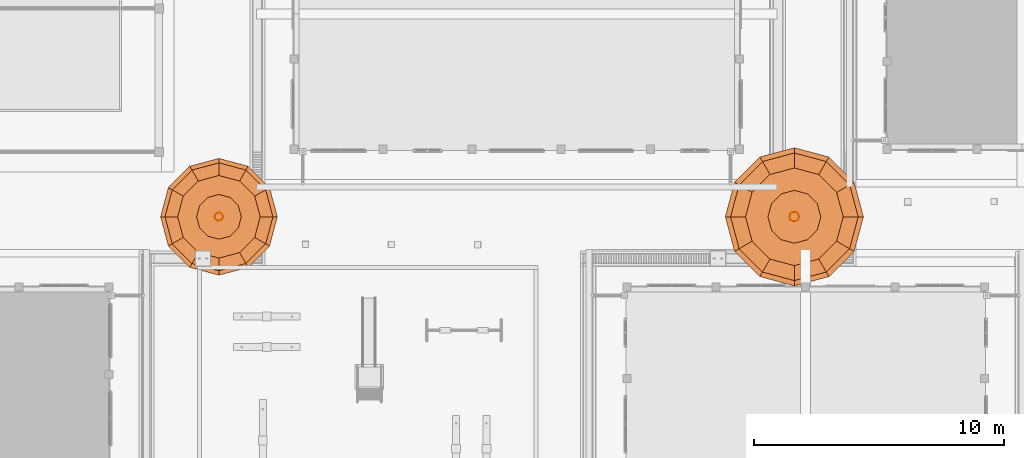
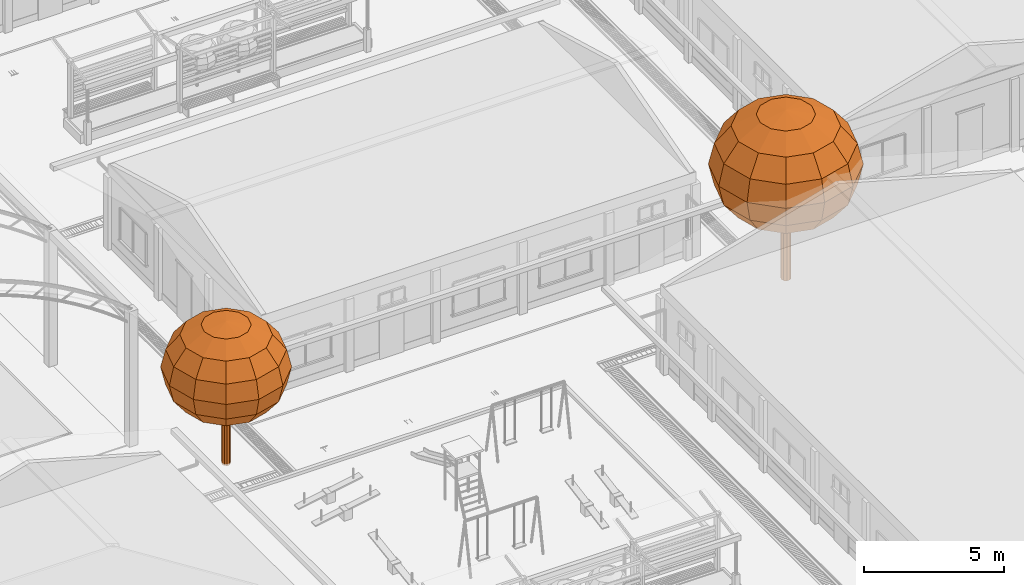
# One storey, part 159 of 166: 4 proxies.
"""IFC2X3 building model written with IfcOpenShell, lengths in metres."""

import ifcopenshell
import ifcopenshell.guid

model = None  # the IFC model being written
_history = None  # IfcOwnerHistory: only IFC2X3 demands one
_inside = {}  # id of a spatial element -> (the spatial element, [elements in it])
_under = {}  # id of a project, library or spatial element -> (it, [spatial elements below it])
_declared = {}  # id of a project -> (the project, [libraries it declares])
_typed = {}  # id of a type object -> (the type object, [elements of that type])
_made_of = {}  # id of a material, layer set ... -> (it, [elements and type objects made of it])


def new_model(schema):
    """Start an empty IFC model of exactly this schema.

    Asked for "IFC4X3", IfcOpenShell would pick the latest addendum, in which some entities
    have other attributes; the version numbers below select the first issue.
    IFC2X3 requires an IfcOwnerHistory on every rooted entity: one is made here for all.
    """
    global model, _history
    if schema == "IFC4X3":
        model = ifcopenshell.file(schema_version=(4, 3, 0, 0))
    else:
        model = ifcopenshell.file(schema=schema)
    _inside.clear()
    _under.clear()
    _declared.clear()
    _typed.clear()
    _made_of.clear()
    _history = None
    if model.schema == "IFC2X3":
        org = make("IfcOrganization", Name="unknown")
        user = make(
            "IfcPersonAndOrganization",
            ThePerson=make("IfcPerson", FamilyName="unknown"),
            TheOrganization=org,
        )
        app = make(
            "IfcApplication",
            ApplicationDeveloper=org,
            Version="unknown",
            ApplicationFullName="unknown",
            ApplicationIdentifier="unknown",
        )
        _history = make(
            "IfcOwnerHistory",
            OwningUser=user,
            OwningApplication=app,
            ChangeAction="ADDED",
            CreationDate=0,
        )
    return model


def make(cls, **values):
    """One entity of the class cls with the attributes given. An attribute that is None is left unset."""
    return model.create_entity(
        cls, **{name: value for name, value in values.items() if value is not None}
    )


def rooted(cls, **values):
    """An entity with a GlobalId (a new one), such as an element, a storey or a relation."""
    return make(cls, GlobalId=ifcopenshell.guid.new(), OwnerHistory=_history, **values)


def si_unit(unit_type, name, prefix=None):
    """IfcSIUnit, for example si_unit("LENGTHUNIT", "METRE", prefix="MILLI")."""
    return make("IfcSIUnit", UnitType=unit_type, Prefix=prefix, Name=name)


def assignment(units):
    """IfcUnitAssignment: the units of a project."""
    return None if units is None else make("IfcUnitAssignment", Units=units)


def point(xyz):
    """IfcCartesianPoint."""
    return None if xyz is None else make("IfcCartesianPoint", Coordinates=xyz)


def direction(xyz):
    """IfcDirection."""
    return None if xyz is None else make("IfcDirection", DirectionRatios=xyz)


def frame(location, z_axis=None, x_axis=None):
    """IfcAxis2Placement3D, a coordinate frame: its origin and axes. An axis left out is left unset."""
    return make(
        "IfcAxis2Placement3D",
        Location=point(location),
        Axis=direction(z_axis),
        RefDirection=direction(x_axis),
    )


def origin():
    """The frame at (0, 0, 0) with its axes left unset."""
    return frame((0.0, 0.0, 0.0))


def origin_with_axes():
    """The frame at (0, 0, 0) with the z axis (0, 0, 1) and the x axis (1, 0, 0) written out."""
    return frame((0.0, 0.0, 0.0), z_axis=(0.0, 0.0, 1.0), x_axis=(1.0, 0.0, 0.0))


def place(relative_to, where):
    """IfcLocalPlacement: puts the frame where relative to a parent placement (None: the world)."""
    return make(
        "IfcLocalPlacement", PlacementRelTo=relative_to, RelativePlacement=where
    )


def context(
    kind, dimensions, precision=None, world=None, true_north=None, identifier=None
):
    """IfcGeometricRepresentationContext, for example the 3D "Model" context."""
    return make(
        "IfcGeometricRepresentationContext",
        ContextIdentifier=identifier,
        ContextType=kind,
        CoordinateSpaceDimension=dimensions,
        Precision=precision,
        WorldCoordinateSystem=world,
        TrueNorth=true_north,
    )


def subcontext(parent, identifier, kind, view, scale=None):
    """IfcGeometricRepresentationSubContext, for example "Body" below "Model"."""
    return make(
        "IfcGeometricRepresentationSubContext",
        ContextIdentifier=identifier,
        ContextType=kind,
        ParentContext=parent,
        TargetScale=scale,
        TargetView=view,
    )


def project(units=None, contexts=None):
    """IfcProject with its units and contexts."""
    return rooted(
        "IfcProject",
        Name="project",
        RepresentationContexts=contexts,
        UnitsInContext=assignment(units),
    )


def spatial(cls, under=None, at=None, **own):
    """A site, building, storey or space (cls), placed at a placement, below another one or the project."""
    s = rooted(cls, ObjectPlacement=at, **own)
    if under is not None:
        _under.setdefault(under.id(), (under, []))[1].append(s)
    return s


def faces_of(points, faces, orient=None, outer=None):
    """IfcFace entities. A face is a list of loops; a loop is a list of indices into points, from 0.

    orient and outer hold one flag for each loop. By default every Orientation is true, the
    first loop of a face is its IfcFaceOuterBound and the others are IfcFaceBound.
    """
    made = []
    for i, loops in enumerate(faces):
        bounds = []
        for j, loop in enumerate(loops):
            is_outer = j == 0 if outer is None else outer[i][j]
            bounds.append(
                make(
                    "IfcFaceOuterBound" if is_outer else "IfcFaceBound",
                    Bound=make("IfcPolyLoop", Polygon=[points[k] for k in loop]),
                    Orientation=True if orient is None else orient[i][j],
                )
            )
        made.append(make("IfcFace", Bounds=bounds))
    return made


def faceted_brep(points, faces, orient=None, outer=None, voids=None):
    """IfcFacetedBrep: a solid bounded by flat faces; with voids (closed shells), ...WithVoids."""
    shared = [point(p) for p in points]
    hull = make("IfcClosedShell", CfsFaces=faces_of(shared, faces, orient, outer))
    if voids is None:
        return make("IfcFacetedBrep", Outer=hull)
    return make(
        "IfcFacetedBrepWithVoids",
        Outer=hull,
        Voids=[
            make(cls, CfsFaces=faces_of(shared, fs, o, b)) for cls, fs, o, b in voids
        ],
    )


def shape(context_of_items, identifier, shape_type, items):
    """IfcShapeRepresentation: the items that make up one representation, for example the "Body"."""
    return make(
        "IfcShapeRepresentation",
        ContextOfItems=context_of_items,
        RepresentationIdentifier=identifier,
        RepresentationType=shape_type,
        Items=items,
    )


def made_of(thing, what):
    """Note that an element or type object is made of a material, layer set ...; save() writes the relation."""
    if what is not None:
        _made_of.setdefault(what.id(), (what, []))[1].append(thing)
    return thing


def element(
    cls,
    number,
    at=None,
    inside=None,
    cuts=None,
    type_object=None,
    material=None,
    context=None,
    identifier="Body",
    shape_type=None,
    held_by="IfcProductDefinitionShape",
    body=None,
    shapes=None,
    **own,
):
    """One element of the class cls, such as IfcWall. Its Tag is "e" and its number.

    at: its placement. inside: the storey or other place that contains it. cuts: it is an
    opening in that element (IfcRelVoidsElement). A single representation is given by context,
    identifier, shape_type and body (its items); several are given by shapes. held_by: the class
    of the entity that holds the representations. save() writes the other relations.
    """
    e = rooted(cls, Tag="e%d" % number, ObjectPlacement=at, **own)
    if body is not None:
        shapes = [shape(context, identifier, shape_type, body)]
    if shapes is not None:
        e.Representation = make(held_by, Representations=shapes)
    if inside is not None:
        _inside.setdefault(inside.id(), (inside, []))[1].append(e)
    if cuts is not None:
        rooted(
            "IfcRelVoidsElement", RelatingBuildingElement=cuts, RelatedOpeningElement=e
        )
    if type_object is not None:
        _typed.setdefault(type_object.id(), (type_object, []))[1].append(e)
    return made_of(e, material)


def aggregate(whole, parts):
    """IfcRelAggregates: a whole, such as a stair, and the parts it consists of."""
    return rooted("IfcRelAggregates", RelatingObject=whole, RelatedObjects=parts)


def save(model, path):
    """Write the relations noted so far, then the file.

    IfcRelAggregates (storeys below a building ...), IfcRelContainedInSpatialStructure (elements
    in a storey), IfcRelDefinesByType, IfcRelAssociatesMaterial and IfcRelDeclares: one each for
    every whole, place, type object, material and project.
    """
    for whole, parts in _under.values():
        aggregate(whole, parts)
    for where, things in _inside.values():
        rooted(
            "IfcRelContainedInSpatialStructure",
            RelatedElements=things,
            RelatingStructure=where,
        )
    for kind, things in _typed.values():
        rooted("IfcRelDefinesByType", RelatedObjects=things, RelatingType=kind)
    for what, things in _made_of.values():
        rooted("IfcRelAssociatesMaterial", RelatedObjects=things, RelatingMaterial=what)
    for by, libraries in _declared.values():
        rooted("IfcRelDeclares", RelatingContext=by, RelatedDefinitions=libraries)
    model.write(path)


model = new_model("IFC2X3")

# Units and contexts
model_context = context("Model", 3, precision=1e-05, world=origin_with_axes())
body_context = subcontext(model_context, "Body", "Model", "MODEL_VIEW")
ifc_project = project(units=[si_unit("LENGTHUNIT", "METRE"), si_unit("AREAUNIT", "SQUARE_METRE"), si_unit("VOLUMEUNIT", "CUBIC_METRE"), si_unit("PLANEANGLEUNIT", "RADIAN")], contexts=[model_context])

# Site, building, storey
site_placement = place(None, origin_with_axes())
site = spatial("IfcSite", under=ifc_project, at=site_placement, Name="Predio Los Mangos - Morales, San Martín", CompositionType="ELEMENT")
building_placement = place(site_placement, origin())
building = spatial("IfcBuilding", under=site, at=building_placement, Name="Hogar de Refugio Temporal", CompositionType="ELEMENT")
storey_placement = place(building_placement, origin())
storey = spatial("IfcBuildingStorey", under=building, at=storey_placement, Name="NIVEL 1 (NPT +0.00)", CompositionType="ELEMENT", Elevation=0.0)

# Proxies
proxy_1_placement = place(storey_placement, origin())
element("IfcBuildingElementProxy", 1, at=proxy_1_placement, inside=storey, Name="arbol_tronco", ObjectType="Árbol", context=body_context, shape_type="Brep", body=[
    faceted_brep([(29.1624, 90.0, 0.0), (29.1314, 90.0954, 0.0), (29.1314, 90.0954, 2.4354), (29.0502, 90.1544, 0.0), (29.0502, 90.1544, 2.4354), (28.9498, 90.1544, 0.0), (28.9498, 90.1544, 2.4354), (28.8686, 90.0954, 0.0), (28.8686, 90.0954, 2.4354), (28.8376, 90.0, 0.0), (28.8376, 90.0, 2.4354), (28.8686, 89.9046, 0.0), (28.8686, 89.9046, 2.4354), (28.9498, 89.8456, 0.0), (28.9498, 89.8456, 2.4354), (29.0502, 89.8456, 0.0), (29.0502, 89.8456, 2.4354), (29.1314, 89.9046, 0.0), (29.1314, 89.9046, 2.4354), (29.1624, 90.0, 2.4354)], [[[0, 1, 2]], [[1, 3, 4]], [[3, 5, 6]], [[5, 7, 8]], [[7, 9, 10]], [[9, 11, 12]], [[11, 13, 14]], [[13, 15, 16]], [[15, 17, 18]], [[17, 0, 19]], [[0, 2, 19]], [[1, 4, 2]], [[3, 6, 4]], [[5, 8, 6]], [[7, 10, 8]], [[9, 12, 10]], [[11, 14, 12]], [[13, 16, 14]], [[15, 18, 16]], [[17, 19, 18]]]),
])
proxy_2_placement = place(storey_placement, origin())
element("IfcBuildingElementProxy", 2, at=proxy_2_placement, inside=storey, Name="arbol_copa", ObjectType="Árbol", context=body_context, shape_type="Brep", body=[
    faceted_brep([(29.0, 90.0, 6.1697), (29.0, 90.0, 6.1697), (29.7735, 90.4466, 6.0187), (29.8932, 90.0, 6.0187), (29.0, 90.0, 6.1697), (29.4466, 90.7735, 6.0187), (29.0, 90.0, 6.1697), (29.0, 90.8932, 6.0187), (29.0, 90.0, 6.1697), (28.5534, 90.7735, 6.0187), (29.0, 90.0, 6.1697), (28.2265, 90.4466, 6.0187), (29.0, 90.0, 6.1697), (28.1068, 90.0, 6.0187), (29.0, 90.0, 6.1697), (28.2265, 89.5534, 6.0187), (29.0, 90.0, 6.1697), (28.5534, 89.2265, 6.0187), (29.0, 90.0, 6.1697), (29.0, 89.1068, 6.0187), (29.0, 90.0, 6.1697), (29.4466, 89.2265, 6.0187), (29.0, 90.0, 6.1697), (29.7735, 89.5534, 6.0187), (30.4292, 90.8252, 5.5887), (30.6503, 90.0, 5.5887), (29.8252, 91.4292, 5.5887), (29.0, 91.6503, 5.5887), (28.1748, 91.4292, 5.5887), (27.5708, 90.8252, 5.5887), (27.3497, 90.0, 5.5887), (27.5708, 89.1748, 5.5887), (28.1748, 88.5708, 5.5887), (29.0, 88.3497, 5.5887), (29.8252, 88.5708, 5.5887), (30.4292, 89.1748, 5.5887), (30.8674, 91.0781, 4.9451), (31.1563, 90.0, 4.9451), (30.0781, 91.8674, 4.9451), (29.0, 92.1563, 4.9451), (27.9219, 91.8674, 4.9451), (27.1326, 91.0781, 4.9451), (26.8437, 90.0, 4.9451), (27.1326, 88.9219, 4.9451), (27.9219, 88.1326, 4.9451), (29.0, 87.8437, 4.9451), (30.0781, 88.1326, 4.9451), (30.8674, 88.9219, 4.9451), (31.0213, 91.167, 4.1859), (31.3339, 90.0, 4.1859), (30.167, 92.0213, 4.1859), (29.0, 92.3339, 4.1859), (27.833, 92.0213, 4.1859), (26.9787, 91.167, 4.1859), (26.6661, 90.0, 4.1859), (26.9787, 88.833, 4.1859), (27.833, 87.9787, 4.1859), (29.0, 87.6661, 4.1859), (30.167, 87.9787, 4.1859), (31.0213, 88.833, 4.1859), (30.8674, 91.0781, 3.4267), (31.1563, 90.0, 3.4267), (30.0781, 91.8674, 3.4267), (29.0, 92.1563, 3.4267), (27.9219, 91.8674, 3.4267), (27.1326, 91.0781, 3.4267), (26.8437, 90.0, 3.4267), (27.1326, 88.9219, 3.4267), (27.9219, 88.1326, 3.4267), (29.0, 87.8437, 3.4267), (30.0781, 88.1326, 3.4267), (30.8674, 88.9219, 3.4267), (30.4292, 90.8252, 2.7831), (30.6503, 90.0, 2.7831), (29.8252, 91.4292, 2.7831), (29.0, 91.6503, 2.7831), (28.1748, 91.4292, 2.7831), (27.5708, 90.8252, 2.7831), (27.3497, 90.0, 2.7831), (27.5708, 89.1748, 2.7831), (28.1748, 88.5708, 2.7831), (29.0, 88.3497, 2.7831), (29.8252, 88.5708, 2.7831), (30.4292, 89.1748, 2.7831), (29.7735, 90.4466, 2.353), (29.8932, 90.0, 2.353), (29.4466, 90.7735, 2.353), (29.0, 90.8932, 2.353), (28.5534, 90.7735, 2.353), (28.2265, 90.4466, 2.353), (28.1068, 90.0, 2.353), (28.2265, 89.5534, 2.353), (28.5534, 89.2265, 2.353), (29.0, 89.1068, 2.353), (29.4466, 89.2265, 2.353), (29.7735, 89.5534, 2.353), (29.0, 90.0, 2.202), (29.0, 90.0, 2.202), (29.0, 90.0, 2.202), (29.0, 90.0, 2.202), (29.0, 90.0, 2.202), (29.0, 90.0, 2.202), (29.0, 90.0, 2.202), (29.0, 90.0, 2.202), (29.0, 90.0, 2.202), (29.0, 90.0, 2.202), (29.0, 90.0, 2.202), (29.0, 90.0, 2.202)], [[[0, 1, 2]], [[0, 2, 3]], [[1, 4, 5]], [[1, 5, 2]], [[4, 6, 7]], [[4, 7, 5]], [[6, 8, 9]], [[6, 9, 7]], [[8, 10, 11]], [[8, 11, 9]], [[10, 12, 13]], [[10, 13, 11]], [[12, 14, 15]], [[12, 15, 13]], [[14, 16, 17]], [[14, 17, 15]], [[16, 18, 19]], [[16, 19, 17]], [[18, 20, 21]], [[18, 21, 19]], [[20, 22, 23]], [[20, 23, 21]], [[22, 0, 3]], [[22, 3, 23]], [[3, 2, 24]], [[3, 24, 25]], [[2, 5, 26]], [[2, 26, 24]], [[5, 7, 27]], [[5, 27, 26]], [[7, 9, 28]], [[7, 28, 27]], [[9, 11, 29]], [[9, 29, 28]], [[11, 13, 30]], [[11, 30, 29]], [[13, 15, 31]], [[13, 31, 30]], [[15, 17, 32]], [[15, 32, 31]], [[17, 19, 33]], [[17, 33, 32]], [[19, 21, 34]], [[19, 34, 33]], [[21, 23, 35]], [[21, 35, 34]], [[23, 3, 25]], [[23, 25, 35]], [[25, 24, 36]], [[25, 36, 37]], [[24, 26, 38]], [[24, 38, 36]], [[26, 27, 39]], [[26, 39, 38]], [[27, 28, 40]], [[27, 40, 39]], [[28, 29, 41]], [[28, 41, 40]], [[29, 30, 42]], [[29, 42, 41]], [[30, 31, 43]], [[30, 43, 42]], [[31, 32, 44]], [[31, 44, 43]], [[32, 33, 45]], [[32, 45, 44]], [[33, 34, 46]], [[33, 46, 45]], [[34, 35, 47]], [[34, 47, 46]], [[35, 25, 37]], [[35, 37, 47]], [[37, 36, 48]], [[37, 48, 49]], [[36, 38, 50]], [[36, 50, 48]], [[38, 39, 51]], [[38, 51, 50]], [[39, 40, 52]], [[39, 52, 51]], [[40, 41, 53]], [[40, 53, 52]], [[41, 42, 54]], [[41, 54, 53]], [[42, 43, 55]], [[42, 55, 54]], [[43, 44, 56]], [[43, 56, 55]], [[44, 45, 57]], [[44, 57, 56]], [[45, 46, 58]], [[45, 58, 57]], [[46, 47, 59]], [[46, 59, 58]], [[47, 37, 49]], [[47, 49, 59]], [[49, 48, 60]], [[49, 60, 61]], [[48, 50, 62]], [[48, 62, 60]], [[50, 51, 63]], [[50, 63, 62]], [[51, 52, 64]], [[51, 64, 63]], [[52, 53, 65]], [[52, 65, 64]], [[53, 54, 66]], [[53, 66, 65]], [[54, 55, 67]], [[54, 67, 66]], [[55, 56, 68]], [[55, 68, 67]], [[56, 57, 69]], [[56, 69, 68]], [[57, 58, 70]], [[57, 70, 69]], [[58, 59, 71]], [[58, 71, 70]], [[59, 49, 61]], [[59, 61, 71]], [[61, 60, 72]], [[61, 72, 73]], [[60, 62, 74]], [[60, 74, 72]], [[62, 63, 75]], [[62, 75, 74]], [[63, 64, 76]], [[63, 76, 75]], [[64, 65, 77]], [[64, 77, 76]], [[65, 66, 78]], [[65, 78, 77]], [[66, 67, 79]], [[66, 79, 78]], [[67, 68, 80]], [[67, 80, 79]], [[68, 69, 81]], [[68, 81, 80]], [[69, 70, 82]], [[69, 82, 81]], [[70, 71, 83]], [[70, 83, 82]], [[71, 61, 73]], [[71, 73, 83]], [[73, 72, 84]], [[73, 84, 85]], [[72, 74, 86]], [[72, 86, 84]], [[74, 75, 87]], [[74, 87, 86]], [[75, 76, 88]], [[75, 88, 87]], [[76, 77, 89]], [[76, 89, 88]], [[77, 78, 90]], [[77, 90, 89]], [[78, 79, 91]], [[78, 91, 90]], [[79, 80, 92]], [[79, 92, 91]], [[80, 81, 93]], [[80, 93, 92]], [[81, 82, 94]], [[81, 94, 93]], [[82, 83, 95]], [[82, 95, 94]], [[83, 73, 85]], [[83, 85, 95]], [[85, 84, 96]], [[85, 96, 97]], [[84, 86, 98]], [[84, 98, 96]], [[86, 87, 99]], [[86, 99, 98]], [[87, 88, 100]], [[87, 100, 99]], [[88, 89, 101]], [[88, 101, 100]], [[89, 90, 102]], [[89, 102, 101]], [[90, 91, 103]], [[90, 103, 102]], [[91, 92, 104]], [[91, 104, 103]], [[92, 93, 105]], [[92, 105, 104]], [[93, 94, 106]], [[93, 106, 105]], [[94, 95, 107]], [[94, 107, 106]], [[95, 85, 97]], [[95, 97, 107]]]),
])
proxy_3_placement = place(storey_placement, origin())
element("IfcBuildingElementProxy", 3, at=proxy_3_placement, inside=storey, Name="arbol_tronco", ObjectType="Árbol", context=body_context, shape_type="Brep", body=[
    faceted_brep([(52.192, 90.0, 0.0), (52.1553, 90.1129, 0.0), (52.1553, 90.1129, 2.8802), (52.0593, 90.1826, 0.0), (52.0593, 90.1826, 2.8802), (51.9407, 90.1826, 0.0), (51.9407, 90.1826, 2.8802), (51.8447, 90.1129, 0.0), (51.8447, 90.1129, 2.8802), (51.808, 90.0, 0.0), (51.808, 90.0, 2.8802), (51.8447, 89.8871, 0.0), (51.8447, 89.8871, 2.8802), (51.9407, 89.8174, 0.0), (51.9407, 89.8174, 2.8802), (52.0593, 89.8174, 0.0), (52.0593, 89.8174, 2.8802), (52.1553, 89.8871, 0.0), (52.1553, 89.8871, 2.8802), (52.192, 90.0, 2.8802)], [[[0, 1, 2]], [[1, 3, 4]], [[3, 5, 6]], [[5, 7, 8]], [[7, 9, 10]], [[9, 11, 12]], [[11, 13, 14]], [[13, 15, 16]], [[15, 17, 18]], [[17, 0, 19]], [[0, 2, 19]], [[1, 4, 2]], [[3, 6, 4]], [[5, 8, 6]], [[7, 10, 8]], [[9, 12, 10]], [[11, 14, 12]], [[13, 16, 14]], [[15, 18, 16]], [[17, 19, 18]]]),
])
proxy_4_placement = place(storey_placement, origin())
element("IfcBuildingElementProxy", 4, at=proxy_4_placement, inside=storey, Name="arbol_copa", ObjectType="Árbol", context=body_context, shape_type="Brep", body=[
    faceted_brep([(52.0, 90.0, 7.2966), (52.0, 90.0, 7.2966), (52.9148, 90.5281, 7.118), (53.0563, 90.0, 7.118), (52.0, 90.0, 7.2966), (52.5281, 90.9148, 7.118), (52.0, 90.0, 7.2966), (52.0, 91.0563, 7.118), (52.0, 90.0, 7.2966), (51.4719, 90.9148, 7.118), (52.0, 90.0, 7.2966), (51.0852, 90.5281, 7.118), (52.0, 90.0, 7.2966), (50.9437, 90.0, 7.118), (52.0, 90.0, 7.2966), (51.0852, 89.4719, 7.118), (52.0, 90.0, 7.2966), (51.4719, 89.0852, 7.118), (52.0, 90.0, 7.2966), (52.0, 88.9437, 7.118), (52.0, 90.0, 7.2966), (52.5281, 89.0852, 7.118), (52.0, 90.0, 7.2966), (52.9148, 89.4719, 7.118), (53.6903, 90.9759, 6.6094), (53.9518, 90.0, 6.6094), (52.9759, 91.6903, 6.6094), (52.0, 91.9518, 6.6094), (51.0241, 91.6903, 6.6094), (50.3097, 90.9759, 6.6094), (50.0482, 90.0, 6.6094), (50.3097, 89.0241, 6.6094), (51.0241, 88.3097, 6.6094), (52.0, 88.0482, 6.6094), (52.9759, 88.3097, 6.6094), (53.6903, 89.0241, 6.6094), (54.2085, 91.2751, 5.8482), (54.5501, 90.0, 5.8482), (53.2751, 92.2085, 5.8482), (52.0, 92.5501, 5.8482), (50.7249, 92.2085, 5.8482), (49.7915, 91.2751, 5.8482), (49.4499, 90.0, 5.8482), (49.7915, 88.7249, 5.8482), (50.7249, 87.7915, 5.8482), (52.0, 87.4499, 5.8482), (53.2751, 87.7915, 5.8482), (54.2085, 88.7249, 5.8482), (54.3904, 91.3801, 4.9504), (54.7602, 90.0, 4.9504), (53.3801, 92.3904, 4.9504), (52.0, 92.7602, 4.9504), (50.6199, 92.3904, 4.9504), (49.6096, 91.3801, 4.9504), (49.2398, 90.0, 4.9504), (49.6096, 88.6199, 4.9504), (50.6199, 87.6096, 4.9504), (52.0, 87.2398, 4.9504), (53.3801, 87.6096, 4.9504), (54.3904, 88.6199, 4.9504), (54.2085, 91.2751, 4.0525), (54.5501, 90.0, 4.0525), (53.2751, 92.2085, 4.0525), (52.0, 92.5501, 4.0525), (50.7249, 92.2085, 4.0525), (49.7915, 91.2751, 4.0525), (49.4499, 90.0, 4.0525), (49.7915, 88.7249, 4.0525), (50.7249, 87.7915, 4.0525), (52.0, 87.4499, 4.0525), (53.2751, 87.7915, 4.0525), (54.2085, 88.7249, 4.0525), (53.6903, 90.9759, 3.2914), (53.9518, 90.0, 3.2914), (52.9759, 91.6903, 3.2914), (52.0, 91.9518, 3.2914), (51.0241, 91.6903, 3.2914), (50.3097, 90.9759, 3.2914), (50.0482, 90.0, 3.2914), (50.3097, 89.0241, 3.2914), (51.0241, 88.3097, 3.2914), (52.0, 88.0482, 3.2914), (52.9759, 88.3097, 3.2914), (53.6903, 89.0241, 3.2914), (52.9148, 90.5281, 2.7828), (53.0563, 90.0, 2.7828), (52.5281, 90.9148, 2.7828), (52.0, 91.0563, 2.7828), (51.4719, 90.9148, 2.7828), (51.0852, 90.5281, 2.7828), (50.9437, 90.0, 2.7828), (51.0852, 89.4719, 2.7828), (51.4719, 89.0852, 2.7828), (52.0, 88.9437, 2.7828), (52.5281, 89.0852, 2.7828), (52.9148, 89.4719, 2.7828), (52.0, 90.0, 2.6042), (52.0, 90.0, 2.6042), (52.0, 90.0, 2.6042), (52.0, 90.0, 2.6042), (52.0, 90.0, 2.6042), (52.0, 90.0, 2.6042), (52.0, 90.0, 2.6042), (52.0, 90.0, 2.6042), (52.0, 90.0, 2.6042), (52.0, 90.0, 2.6042), (52.0, 90.0, 2.6042), (52.0, 90.0, 2.6042)], [[[0, 1, 2]], [[0, 2, 3]], [[1, 4, 5]], [[1, 5, 2]], [[4, 6, 7]], [[4, 7, 5]], [[6, 8, 9]], [[6, 9, 7]], [[8, 10, 11]], [[8, 11, 9]], [[10, 12, 13]], [[10, 13, 11]], [[12, 14, 15]], [[12, 15, 13]], [[14, 16, 17]], [[14, 17, 15]], [[16, 18, 19]], [[16, 19, 17]], [[18, 20, 21]], [[18, 21, 19]], [[20, 22, 23]], [[20, 23, 21]], [[22, 0, 3]], [[22, 3, 23]], [[3, 2, 24]], [[3, 24, 25]], [[2, 5, 26]], [[2, 26, 24]], [[5, 7, 27]], [[5, 27, 26]], [[7, 9, 28]], [[7, 28, 27]], [[9, 11, 29]], [[9, 29, 28]], [[11, 13, 30]], [[11, 30, 29]], [[13, 15, 31]], [[13, 31, 30]], [[15, 17, 32]], [[15, 32, 31]], [[17, 19, 33]], [[17, 33, 32]], [[19, 21, 34]], [[19, 34, 33]], [[21, 23, 35]], [[21, 35, 34]], [[23, 3, 25]], [[23, 25, 35]], [[25, 24, 36]], [[25, 36, 37]], [[24, 26, 38]], [[24, 38, 36]], [[26, 27, 39]], [[26, 39, 38]], [[27, 28, 40]], [[27, 40, 39]], [[28, 29, 41]], [[28, 41, 40]], [[29, 30, 42]], [[29, 42, 41]], [[30, 31, 43]], [[30, 43, 42]], [[31, 32, 44]], [[31, 44, 43]], [[32, 33, 45]], [[32, 45, 44]], [[33, 34, 46]], [[33, 46, 45]], [[34, 35, 47]], [[34, 47, 46]], [[35, 25, 37]], [[35, 37, 47]], [[37, 36, 48]], [[37, 48, 49]], [[36, 38, 50]], [[36, 50, 48]], [[38, 39, 51]], [[38, 51, 50]], [[39, 40, 52]], [[39, 52, 51]], [[40, 41, 53]], [[40, 53, 52]], [[41, 42, 54]], [[41, 54, 53]], [[42, 43, 55]], [[42, 55, 54]], [[43, 44, 56]], [[43, 56, 55]], [[44, 45, 57]], [[44, 57, 56]], [[45, 46, 58]], [[45, 58, 57]], [[46, 47, 59]], [[46, 59, 58]], [[47, 37, 49]], [[47, 49, 59]], [[49, 48, 60]], [[49, 60, 61]], [[48, 50, 62]], [[48, 62, 60]], [[50, 51, 63]], [[50, 63, 62]], [[51, 52, 64]], [[51, 64, 63]], [[52, 53, 65]], [[52, 65, 64]], [[53, 54, 66]], [[53, 66, 65]], [[54, 55, 67]], [[54, 67, 66]], [[55, 56, 68]], [[55, 68, 67]], [[56, 57, 69]], [[56, 69, 68]], [[57, 58, 70]], [[57, 70, 69]], [[58, 59, 71]], [[58, 71, 70]], [[59, 49, 61]], [[59, 61, 71]], [[61, 60, 72]], [[61, 72, 73]], [[60, 62, 74]], [[60, 74, 72]], [[62, 63, 75]], [[62, 75, 74]], [[63, 64, 76]], [[63, 76, 75]], [[64, 65, 77]], [[64, 77, 76]], [[65, 66, 78]], [[65, 78, 77]], [[66, 67, 79]], [[66, 79, 78]], [[67, 68, 80]], [[67, 80, 79]], [[68, 69, 81]], [[68, 81, 80]], [[69, 70, 82]], [[69, 82, 81]], [[70, 71, 83]], [[70, 83, 82]], [[71, 61, 73]], [[71, 73, 83]], [[73, 72, 84]], [[73, 84, 85]], [[72, 74, 86]], [[72, 86, 84]], [[74, 75, 87]], [[74, 87, 86]], [[75, 76, 88]], [[75, 88, 87]], [[76, 77, 89]], [[76, 89, 88]], [[77, 78, 90]], [[77, 90, 89]], [[78, 79, 91]], [[78, 91, 90]], [[79, 80, 92]], [[79, 92, 91]], [[80, 81, 93]], [[80, 93, 92]], [[81, 82, 94]], [[81, 94, 93]], [[82, 83, 95]], [[82, 95, 94]], [[83, 73, 85]], [[83, 85, 95]], [[85, 84, 96]], [[85, 96, 97]], [[84, 86, 98]], [[84, 98, 96]], [[86, 87, 99]], [[86, 99, 98]], [[87, 88, 100]], [[87, 100, 99]], [[88, 89, 101]], [[88, 101, 100]], [[89, 90, 102]], [[89, 102, 101]], [[90, 91, 103]], [[90, 103, 102]], [[91, 92, 104]], [[91, 104, 103]], [[92, 93, 105]], [[92, 105, 104]], [[93, 94, 106]], [[93, 106, 105]], [[94, 95, 107]], [[94, 107, 106]], [[95, 85, 97]], [[95, 97, 107]]]),
])

save(model, "model.ifc")
